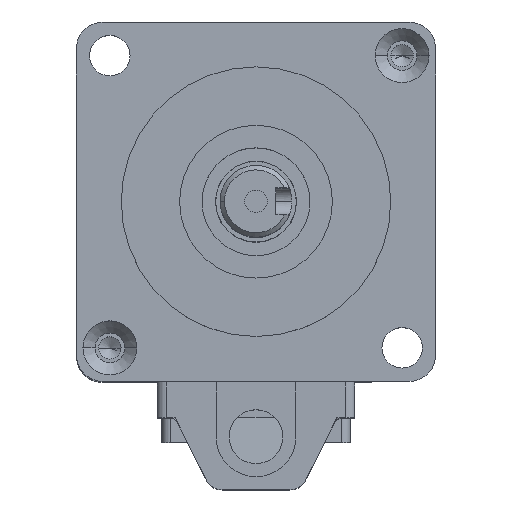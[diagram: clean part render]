
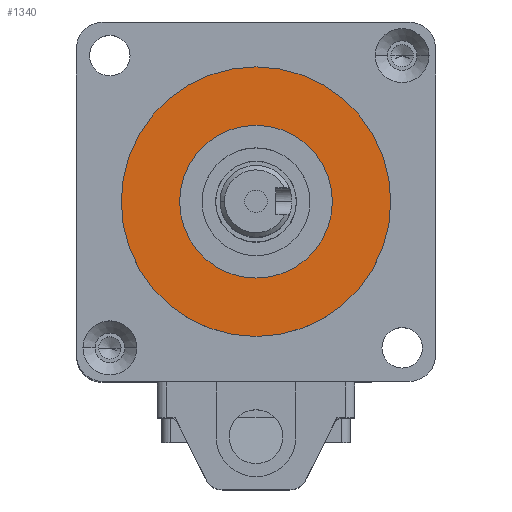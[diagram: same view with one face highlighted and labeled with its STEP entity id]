
A CAD part, top view. The second image highlights one B-rep face of the part: STEP entity #1340.
In plain terms, the highlighted planar face has unit normal (0, 0, 1).
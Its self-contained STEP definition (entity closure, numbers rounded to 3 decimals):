
#331 = CARTESIAN_POINT ( 'NONE',  ( -4.384, 29.424, -9.136 ) ) ;
#560 = CARTESIAN_POINT ( 'NONE',  ( -12.884, 29.424, -9.136 ) ) ;
#639 = CARTESIAN_POINT ( 'NONE',  ( -4.384, 29.424, -9.136 ) ) ;
#703 = VERTEX_POINT ( 'NONE', #4176 ) ;
#824 = DIRECTION ( 'NONE',  ( 0., 0., 1. ) ) ;
#878 = EDGE_LOOP ( 'NONE', ( #14536, #11837 ) ) ;
#1340 = ADVANCED_FACE ( 'NONE', ( #12099, #3272 ), #14633, .T. ) ;
#1845 = EDGE_LOOP ( 'NONE', ( #2882, #14690 ) ) ;
#1876 = DIRECTION ( 'NONE',  ( 0., 0., 1. ) ) ;
#1991 = CIRCLE ( 'NONE', #16894, 8.5 ) ;
#2091 = DIRECTION ( 'NONE',  ( 1., 0., 0. ) ) ;
#2388 = AXIS2_PLACEMENT_3D ( 'NONE', #5797, #11722, #4345 ) ;
#2882 = ORIENTED_EDGE ( 'NONE', *, *, #12705, .F. ) ;
#3272 = FACE_OUTER_BOUND ( 'NONE', #878, .T. ) ;
#4176 = CARTESIAN_POINT ( 'NONE',  ( 4.116, 29.424, -9.136 ) ) ;
#4345 = DIRECTION ( 'NONE',  ( 1., 0., 0. ) ) ;
#5096 = DIRECTION ( 'NONE',  ( 1., 0., 0. ) ) ;
#5797 = CARTESIAN_POINT ( 'NONE',  ( 12.616, 46.424, -9.136 ) ) ;
#6809 = VERTEX_POINT ( 'NONE', #560 ) ;
#7051 = EDGE_CURVE ( 'NONE', #6809, #703, #15515, .T. ) ;
#7452 = AXIS2_PLACEMENT_3D ( 'NONE', #639, #824, #2091 ) ;
#9357 = AXIS2_PLACEMENT_3D ( 'NONE', #12468, #17131, #5096 ) ;
#9452 = DIRECTION ( 'NONE',  ( 1., 0., 0. ) ) ;
#9672 = EDGE_CURVE ( 'NONE', #10788, #17881, #18014, .T. ) ;
#9911 = DIRECTION ( 'NONE',  ( 0., 0., 1. ) ) ;
#9947 = AXIS2_PLACEMENT_3D ( 'NONE', #331, #1876, #9452 ) ;
#10603 = CIRCLE ( 'NONE', #9357, 15. ) ;
#10788 = VERTEX_POINT ( 'NONE', #15086 ) ;
#11722 = DIRECTION ( 'NONE',  ( 0., 0., 1. ) ) ;
#11837 = ORIENTED_EDGE ( 'NONE', *, *, #9672, .T. ) ;
#12099 = FACE_BOUND ( 'NONE', #1845, .T. ) ;
#12468 = CARTESIAN_POINT ( 'NONE',  ( -4.384, 29.424, -9.136 ) ) ;
#12576 = CARTESIAN_POINT ( 'NONE',  ( 10.616, 29.424, -9.136 ) ) ;
#12705 = EDGE_CURVE ( 'NONE', #703, #6809, #1991, .T. ) ;
#14179 = CARTESIAN_POINT ( 'NONE',  ( -4.384, 29.424, -9.136 ) ) ;
#14536 = ORIENTED_EDGE ( 'NONE', *, *, #17247, .T. ) ;
#14633 = PLANE ( 'NONE',  #2388 ) ;
#14690 = ORIENTED_EDGE ( 'NONE', *, *, #7051, .F. ) ;
#15086 = CARTESIAN_POINT ( 'NONE',  ( -19.384, 29.424, -9.136 ) ) ;
#15515 = CIRCLE ( 'NONE', #9947, 8.5 ) ;
#16894 = AXIS2_PLACEMENT_3D ( 'NONE', #14179, #9911, #18846 ) ;
#17131 = DIRECTION ( 'NONE',  ( 0., 0., 1. ) ) ;
#17247 = EDGE_CURVE ( 'NONE', #17881, #10788, #10603, .T. ) ;
#17881 = VERTEX_POINT ( 'NONE', #12576 ) ;
#18014 = CIRCLE ( 'NONE', #7452, 15. ) ;
#18846 = DIRECTION ( 'NONE',  ( 1., 0., 0. ) ) ;
